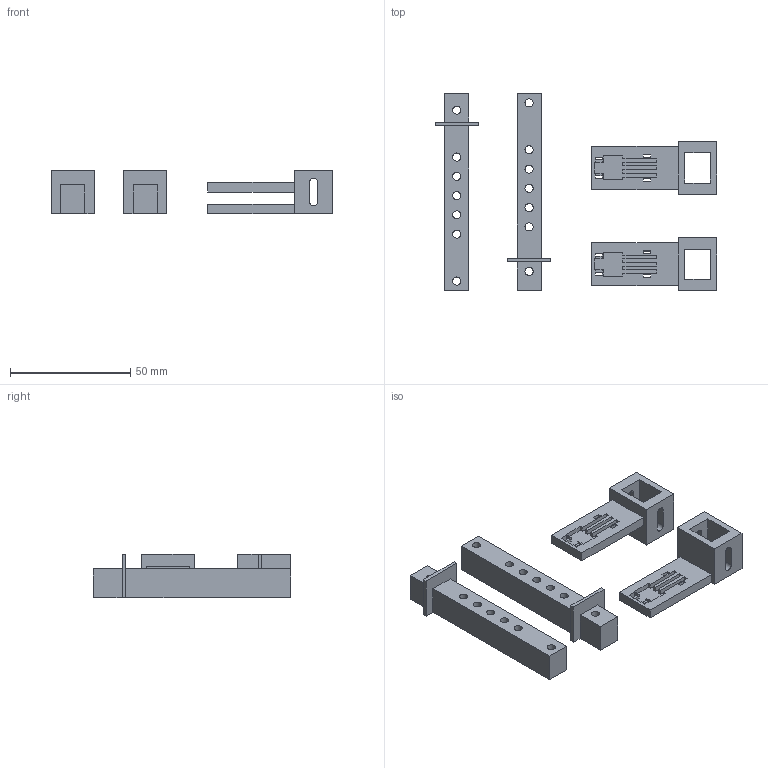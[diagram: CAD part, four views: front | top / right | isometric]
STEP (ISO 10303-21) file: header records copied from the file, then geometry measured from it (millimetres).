
FILE_DESCRIPTION(('Open CASCADE Model'),'2;1');
FILE_NAME('Open CASCADE Shape Model','2026-11-12T16:33:16',('Author'),( 'Open CASCADE'),'Open CASCADE STEP processor 7.9','Open CASCADE 7.9' ,'Unknown');
FILE_SCHEMA(('AUTOMOTIVE_DESIGN { 1 0 10303 214 1 1 1 1 }'));
Length unit declared in the file: millimetre
Products named in the file (5): Open CASCADE STEP translator 7.9 7; Open CASCADE STEP translator 7.9 7.1; Open CASCADE STEP translator 7.9 7.2; Open CASCADE STEP translator 7.9 7.3; Open CASCADE STEP translator 7.9 7.4
Assembly tree (4 placements, depth 2):
  Open CASCADE STEP translator 7.9 7
    Open CASCADE STEP translator 7.9 7.1
    Open CASCADE STEP translator 7.9 7.2
    Open CASCADE STEP translator 7.9 7.3
    Open CASCADE STEP translator 7.9 7.4
Bounding box: 117 x 82 x 18 mm (x, y, z)
Volume: 30035.5 mm3; surface area: 19599.1 mm2
Topology: 4 solids, 4 shells, 183 faces, 522 edges, 348 vertices
Faces by surface type: plane 161, cylinder 22
Full cylindrical faces by diameter (mm): 3.4 x14
Entity records: 12854 total; most frequent: CARTESIAN_POINT 2102, DIRECTION 1986, LINE 1478, VECTOR 1478, ORIENTED_EDGE 1044, PCURVE 1044, DEFINITIONAL_REPRESENTATION 1044, EDGE_CURVE 522
